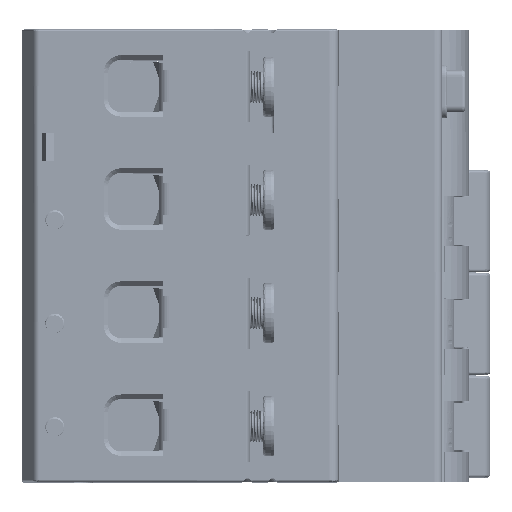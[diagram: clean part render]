
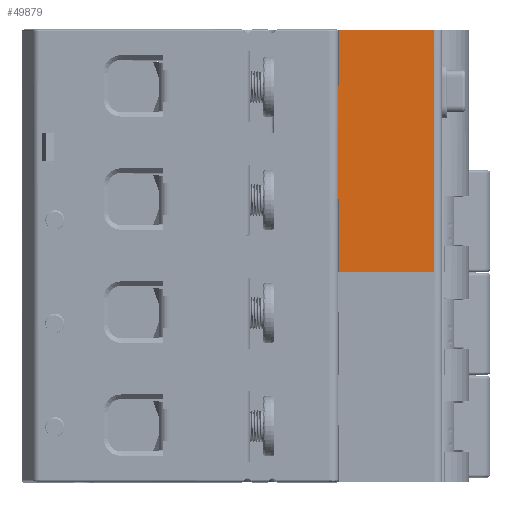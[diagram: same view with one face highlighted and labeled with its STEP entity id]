
A CAD part, top view. The second image highlights one B-rep face of the part: STEP entity #49879.
In plain terms, the highlighted planar face has unit normal (0, 0, 1).
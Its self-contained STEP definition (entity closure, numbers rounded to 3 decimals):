
#122 = PLANE ( 'NONE',  #217986 ) ;
#8098 = DIRECTION ( 'NONE',  ( 0., 0., 1. ) ) ;
#14407 = CARTESIAN_POINT ( 'NONE',  ( 49.571, 32.55, 62.7 ) ) ;
#20172 = VERTEX_POINT ( 'NONE', #104822 ) ;
#38836 = CARTESIAN_POINT ( 'NONE',  ( 49.571, 36.35, 62.7 ) ) ;
#49879 = ADVANCED_FACE ( 'NONE', ( #375585 ), #122, .T. ) ;
#54731 = EDGE_LOOP ( 'NONE', ( #418602, #468974, #481924, #431188, #511307, #263199, #80825, #473903 ) ) ;
#65804 = CARTESIAN_POINT ( 'NONE',  ( 49.571, 67.55, 62.7 ) ) ;
#70288 = CARTESIAN_POINT ( 'NONE',  ( 59.524, 70.5, 62.7 ) ) ;
#71978 = EDGE_CURVE ( 'NONE', #506208, #351089, #462938, .T. ) ;
#80825 = ORIENTED_EDGE ( 'NONE', *, *, #145541, .T. ) ;
#82676 = CARTESIAN_POINT ( 'NONE',  ( 49.571, 43.95, 62.7 ) ) ;
#84616 = CARTESIAN_POINT ( 'NONE',  ( 49.571, 43.95, 62.7 ) ) ;
#98703 = CARTESIAN_POINT ( 'NONE',  ( 49.571, 61.65, 62.7 ) ) ;
#100109 = EDGE_CURVE ( 'NONE', #294405, #169753, #443564, .T. ) ;
#103282 = CARTESIAN_POINT ( 'NONE',  ( 64.5, 32.55, 62.7 ) ) ;
#104822 = CARTESIAN_POINT ( 'NONE',  ( 49.5, 43.95, 62.7 ) ) ;
#117660 = VERTEX_POINT ( 'NONE', #512537 ) ;
#119384 = EDGE_CURVE ( 'NONE', #351089, #175769, #375768, .T. ) ;
#123241 = CARTESIAN_POINT ( 'NONE',  ( 49.5, 43.95, 62.7 ) ) ;
#130176 = B_SPLINE_CURVE_WITH_KNOTS ( 'NONE', 3,
 ( #123241, #288088, #452796, #82676 ),
 .UNSPECIFIED., .F., .F.,
 ( 4, 4 ),
 ( 0., 1. ),
 .UNSPECIFIED. ) ;
#145541 = EDGE_CURVE ( 'NONE', #20172, #155494, #130176, .T. ) ;
#151283 = CARTESIAN_POINT ( 'NONE',  ( 64.5, 70.5, 62.7 ) ) ;
#155494 = VERTEX_POINT ( 'NONE', #355889 ) ;
#160854 = CARTESIAN_POINT ( 'NONE',  ( 49.5, 61.65, 62.7 ) ) ;
#164871 = DIRECTION ( 'NONE',  ( 1., 0., 0. ) ) ;
#166937 = CARTESIAN_POINT ( 'NONE',  ( 49.524, 61.65, 62.7 ) ) ;
#168395 = CARTESIAN_POINT ( 'NONE',  ( 49.571, 32.55, 62.7 ) ) ;
#169753 = VERTEX_POINT ( 'NONE', #160854 ) ;
#173698 = CARTESIAN_POINT ( 'NONE',  ( 49.571, 40.15, 62.7 ) ) ;
#175769 = VERTEX_POINT ( 'NONE', #483750 ) ;
#179399 = CARTESIAN_POINT ( 'NONE',  ( 49.571, 61.65, 62.7 ) ) ;
#179879 = B_SPLINE_CURVE_WITH_KNOTS ( 'NONE', 3,
 ( #435541, #278774, #240965, #440876 ),
 .UNSPECIFIED., .F., .F.,
 ( 4, 4 ),
 ( 0., 1. ),
 .UNSPECIFIED. ) ;
#186251 = EDGE_CURVE ( 'NONE', #506208, #117660, #308546, .T. ) ;
#191965 = CARTESIAN_POINT ( 'NONE',  ( 54.547, 70.5, 62.7 ) ) ;
#217986 = AXIS2_PLACEMENT_3D ( 'NONE', #416087, #8098, #164871 ) ;
#229817 = CARTESIAN_POINT ( 'NONE',  ( 49.571, 70.5, 62.7 ) ) ;
#240965 = CARTESIAN_POINT ( 'NONE',  ( 49.5, 55.75, 62.7 ) ) ;
#263199 = ORIENTED_EDGE ( 'NONE', *, *, #533950, .F. ) ;
#270306 = CARTESIAN_POINT ( 'NONE',  ( 64.5, 70.5, 62.7 ) ) ;
#278774 = CARTESIAN_POINT ( 'NONE',  ( 49.5, 49.85, 62.7 ) ) ;
#288088 = CARTESIAN_POINT ( 'NONE',  ( 49.524, 43.95, 62.7 ) ) ;
#291218 = CARTESIAN_POINT ( 'NONE',  ( 49.571, 61.65, 62.7 ) ) ;
#294405 = VERTEX_POINT ( 'NONE', #98703 ) ;
#300803 = CARTESIAN_POINT ( 'NONE',  ( 54.547, 32.55, 62.7 ) ) ;
#308546 = B_SPLINE_CURVE_WITH_KNOTS ( 'NONE', 3,
 ( #500685, #379258, #300803, #14407 ),
 .UNSPECIFIED., .F., .F.,
 ( 4, 4 ),
 ( 0., 1. ),
 .UNSPECIFIED. ) ;
#320097 = EDGE_CURVE ( 'NONE', #117660, #155494, #325498, .T. ) ;
#320220 = CARTESIAN_POINT ( 'NONE',  ( 64.5, 70.5, 62.7 ) ) ;
#325498 = B_SPLINE_CURVE_WITH_KNOTS ( 'NONE', 3,
 ( #168395, #38836, #173698, #84616 ),
 .UNSPECIFIED., .F., .F.,
 ( 4, 4 ),
 ( 0., 1. ),
 .UNSPECIFIED. ) ;
#351089 = VERTEX_POINT ( 'NONE', #320220 ) ;
#355889 = CARTESIAN_POINT ( 'NONE',  ( 49.571, 43.95, 62.7 ) ) ;
#359344 = CARTESIAN_POINT ( 'NONE',  ( 64.5, 45.2, 62.7 ) ) ;
#375585 = FACE_OUTER_BOUND ( 'NONE', #54731, .T. ) ;
#375768 = B_SPLINE_CURVE_WITH_KNOTS ( 'NONE', 3,
 ( #270306, #70288, #191965, #229817 ),
 .UNSPECIFIED., .F., .F.,
 ( 4, 4 ),
 ( 0., 1. ),
 .UNSPECIFIED. ) ;
#379258 = CARTESIAN_POINT ( 'NONE',  ( 59.524, 32.55, 62.7 ) ) ;
#397218 = CARTESIAN_POINT ( 'NONE',  ( 64.5, 32.55, 62.7 ) ) ;
#404616 = B_SPLINE_CURVE_WITH_KNOTS ( 'NONE', 3,
 ( #465773, #65804, #508882, #179399 ),
 .UNSPECIFIED., .F., .F.,
 ( 4, 4 ),
 ( 0., 1. ),
 .UNSPECIFIED. ) ;
#416087 = CARTESIAN_POINT ( 'NONE',  ( 49.5, 40.75, 62.7 ) ) ;
#418602 = ORIENTED_EDGE ( 'NONE', *, *, #186251, .F. ) ;
#431188 = ORIENTED_EDGE ( 'NONE', *, *, #510581, .T. ) ;
#435009 = CARTESIAN_POINT ( 'NONE',  ( 64.5, 57.85, 62.7 ) ) ;
#435541 = CARTESIAN_POINT ( 'NONE',  ( 49.5, 43.95, 62.7 ) ) ;
#440876 = CARTESIAN_POINT ( 'NONE',  ( 49.5, 61.65, 62.7 ) ) ;
#443564 = B_SPLINE_CURVE_WITH_KNOTS ( 'NONE', 3,
 ( #291218, #463905, #166937, #466556 ),
 .UNSPECIFIED., .F., .F.,
 ( 4, 4 ),
 ( 0., 1. ),
 .UNSPECIFIED. ) ;
#452796 = CARTESIAN_POINT ( 'NONE',  ( 49.547, 43.95, 62.7 ) ) ;
#462938 = B_SPLINE_CURVE_WITH_KNOTS ( 'NONE', 3,
 ( #397218, #359344, #435009, #151283 ),
 .UNSPECIFIED., .F., .F.,
 ( 4, 4 ),
 ( 0., 1. ),
 .UNSPECIFIED. ) ;
#463905 = CARTESIAN_POINT ( 'NONE',  ( 49.547, 61.65, 62.7 ) ) ;
#465773 = CARTESIAN_POINT ( 'NONE',  ( 49.571, 70.5, 62.7 ) ) ;
#466556 = CARTESIAN_POINT ( 'NONE',  ( 49.5, 61.65, 62.7 ) ) ;
#468974 = ORIENTED_EDGE ( 'NONE', *, *, #71978, .T. ) ;
#473903 = ORIENTED_EDGE ( 'NONE', *, *, #320097, .F. ) ;
#481924 = ORIENTED_EDGE ( 'NONE', *, *, #119384, .T. ) ;
#483750 = CARTESIAN_POINT ( 'NONE',  ( 49.571, 70.5, 62.7 ) ) ;
#500685 = CARTESIAN_POINT ( 'NONE',  ( 64.5, 32.55, 62.7 ) ) ;
#506208 = VERTEX_POINT ( 'NONE', #103282 ) ;
#508882 = CARTESIAN_POINT ( 'NONE',  ( 49.571, 64.6, 62.7 ) ) ;
#510581 = EDGE_CURVE ( 'NONE', #175769, #294405, #404616, .T. ) ;
#511307 = ORIENTED_EDGE ( 'NONE', *, *, #100109, .T. ) ;
#512537 = CARTESIAN_POINT ( 'NONE',  ( 49.571, 32.55, 62.7 ) ) ;
#533950 = EDGE_CURVE ( 'NONE', #20172, #169753, #179879, .T. ) ;
